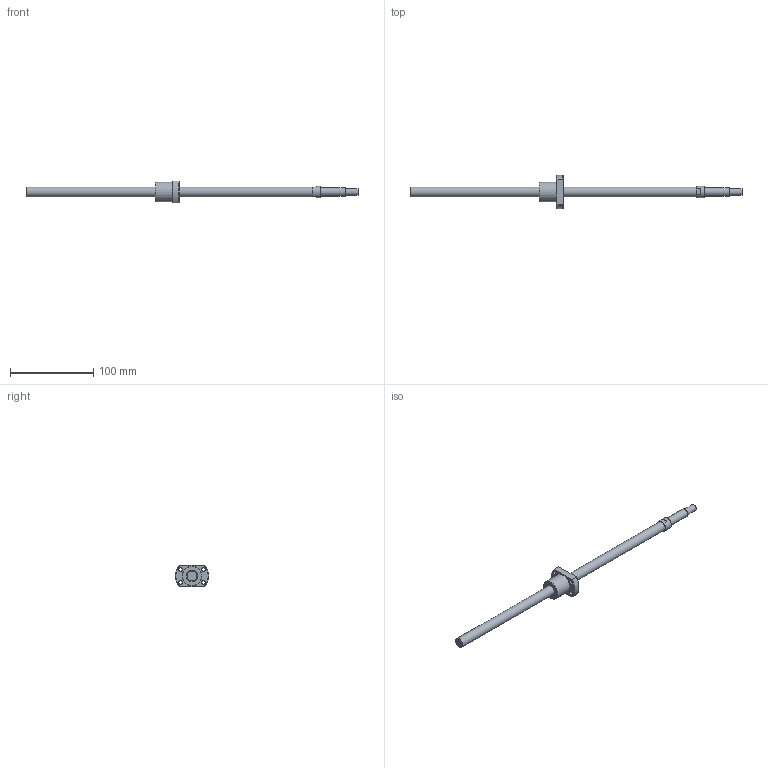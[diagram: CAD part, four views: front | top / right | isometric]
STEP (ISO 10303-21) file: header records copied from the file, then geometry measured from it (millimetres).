
FILE_DESCRIPTION(/* description */ ('STEP AP214'),/* implementation_level */ '2;1');
FILE_NAME(/* name */ 'NSGF1204Z-340R400C3-0-T-S-T-A-(155.5-S)',/* time_stamp */ '2026-08-24T20:18:55+02:00',/* author */ ('License CC BY-ND 4.0'),/* organization */ ('CADENAS'),/* preprocessor_version */ 'ST-DEVELOPER v20',/* originating_system */ 'PARTsolutions',/* authorisation */ ' ');
FILE_SCHEMA (('AUTOMOTIVE_DESIGN {1 0 10303 214 3 1 1}'));
Length unit declared in the file: millimetre
Products named in the file (3): NSGF1204Z-340R400C3-0-T-S-T-A-(155.5-S); NSG1204Z-340R40029_(T-S_T-A_2)-2; NSGF1204Z-1
Assembly tree (2 placements, depth 2):
  NSGF1204Z-340R400C3-0-T-S-T-A-(155.5-S)
    NSG1204Z-340R40029_(T-S_T-A_2)-2
    NSGF1204Z-1
Bounding box: 400 x 39.88 x 26 mm (x, y, z)
Volume: 55102.6 mm3; surface area: 20831.6 mm2
Topology: 2 solids, 2 shells, 38 faces, 85 edges, 55 vertices
Faces by surface type: plane 16, cylinder 13, cone 8, torus 1
Full cylindrical faces by diameter (mm): 4.5 x4, 8 x1, 10 x1, 12 x2, 14 x1, 21 x1, 24 x1
Entity records: 1055 total; most frequent: CARTESIAN_POINT 181, DIRECTION 178, ORIENTED_EDGE 130, AXIS2_PLACEMENT_3D 80, EDGE_LOOP 68, FACE_BOUND 68, EDGE_CURVE 65, VERTEX_POINT 51
